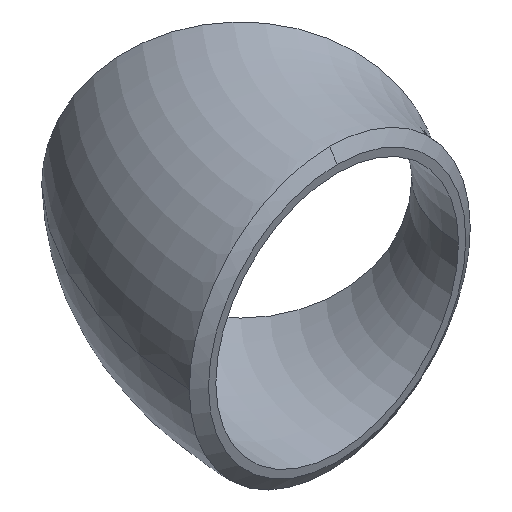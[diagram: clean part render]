
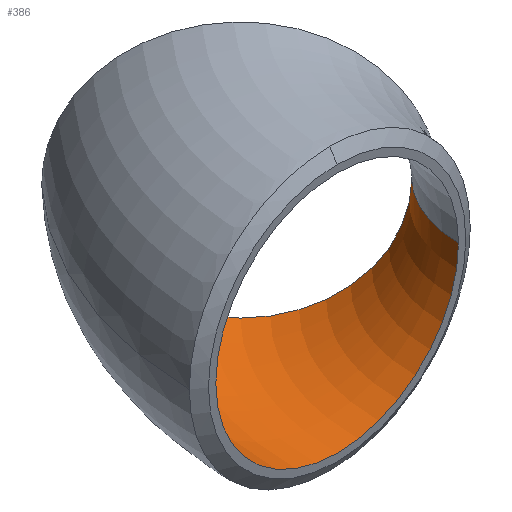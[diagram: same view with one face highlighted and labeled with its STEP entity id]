
A CAD part, isometric view. The second image highlights one B-rep face of the part: STEP entity #386.
In plain terms, the highlighted toroidal (fillet/blend) face has major radius 63.494 mm and minor radius 32.95 mm.
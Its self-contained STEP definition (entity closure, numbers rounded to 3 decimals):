
#13 = CARTESIAN_POINT ( 'NONE',  ( 63.494, 0., 0. ) ) ;
#16 = DIRECTION ( 'NONE',  ( 0., 0., 1. ) ) ;
#24 = AXIS2_PLACEMENT_3D ( 'NONE', #473, #16, #199 ) ;
#80 = CIRCLE ( 'NONE', #140, 96.444 ) ;
#83 = VERTEX_POINT ( 'NONE', #397 ) ;
#97 = CARTESIAN_POINT ( 'NONE',  ( 18.597, 44.897, 0. ) ) ;
#99 = EDGE_CURVE ( 'NONE', #83, #146, #235, .T. ) ;
#123 = CARTESIAN_POINT ( 'NONE',  ( -4.702, 68.196, 0. ) ) ;
#127 = DIRECTION ( 'NONE',  ( 0., -1., 0. ) ) ;
#140 = AXIS2_PLACEMENT_3D ( 'NONE', #13, #379, #553 ) ;
#146 = VERTEX_POINT ( 'NONE', #534 ) ;
#153 = VERTEX_POINT ( 'NONE', #123 ) ;
#158 = FACE_OUTER_BOUND ( 'NONE', #549, .T. ) ;
#172 = CARTESIAN_POINT ( 'NONE',  ( 0., 0., 0. ) ) ;
#191 = CARTESIAN_POINT ( 'NONE',  ( 63.494, 0., 0. ) ) ;
#193 = VERTEX_POINT ( 'NONE', #220 ) ;
#199 = DIRECTION ( 'NONE',  ( 1., 0., 0. ) ) ;
#215 = ORIENTED_EDGE ( 'NONE', *, *, #560, .F. ) ;
#217 = DIRECTION ( 'NONE',  ( 0., 0., 1. ) ) ;
#220 = CARTESIAN_POINT ( 'NONE',  ( 41.896, 21.598, 0. ) ) ;
#222 = ORIENTED_EDGE ( 'NONE', *, *, #449, .F. ) ;
#223 = AXIS2_PLACEMENT_3D ( 'NONE', #191, #245, #240 ) ;
#235 = CIRCLE ( 'NONE', #242, 32.95 ) ;
#240 = DIRECTION ( 'NONE',  ( 1., 0., 0. ) ) ;
#242 = AXIS2_PLACEMENT_3D ( 'NONE', #172, #127, #217 ) ;
#245 = DIRECTION ( 'NONE',  ( 0., 0., 1. ) ) ;
#266 = DIRECTION ( 'NONE',  ( -0.707, -0.707, 0. ) ) ;
#280 = TOROIDAL_SURFACE ( 'NONE', #24, 63.494, 32.95 ) ;
#312 = CIRCLE ( 'NONE', #223, 30.544 ) ;
#379 = DIRECTION ( 'NONE',  ( 0., 0., 1. ) ) ;
#386 = ADVANCED_FACE ( 'NONE', ( #158 ), #280, .F. ) ;
#397 = CARTESIAN_POINT ( 'NONE',  ( -32.95, 0., 0. ) ) ;
#401 = CIRCLE ( 'NONE', #555, 32.95 ) ;
#449 = EDGE_CURVE ( 'NONE', #153, #193, #401, .T. ) ;
#462 = ORIENTED_EDGE ( 'NONE', *, *, #475, .T. ) ;
#473 = CARTESIAN_POINT ( 'NONE',  ( 63.494, 0., 0. ) ) ;
#475 = EDGE_CURVE ( 'NONE', #153, #83, #80, .T. ) ;
#534 = CARTESIAN_POINT ( 'NONE',  ( 32.95, 0., 0. ) ) ;
#541 = ORIENTED_EDGE ( 'NONE', *, *, #99, .T. ) ;
#547 = DIRECTION ( 'NONE',  ( 0., 0., 1. ) ) ;
#549 = EDGE_LOOP ( 'NONE', ( #222, #462, #541, #215 ) ) ;
#553 = DIRECTION ( 'NONE',  ( 1., 0., 0. ) ) ;
#555 = AXIS2_PLACEMENT_3D ( 'NONE', #97, #266, #547 ) ;
#560 = EDGE_CURVE ( 'NONE', #193, #146, #312, .T. ) ;
